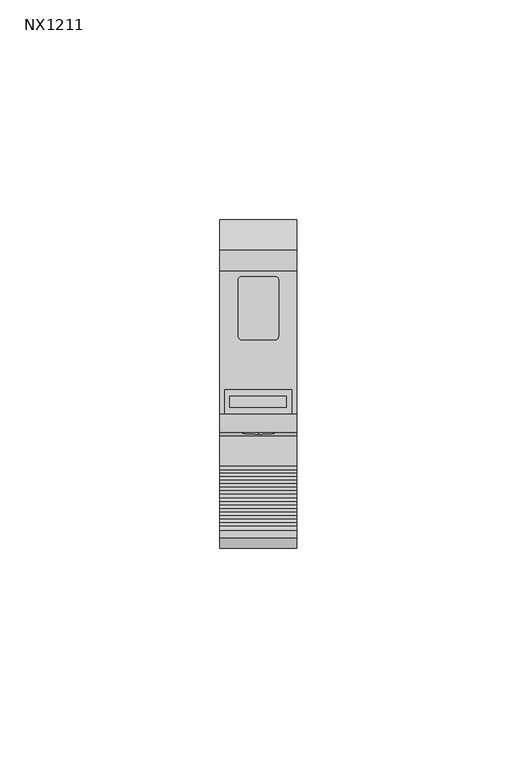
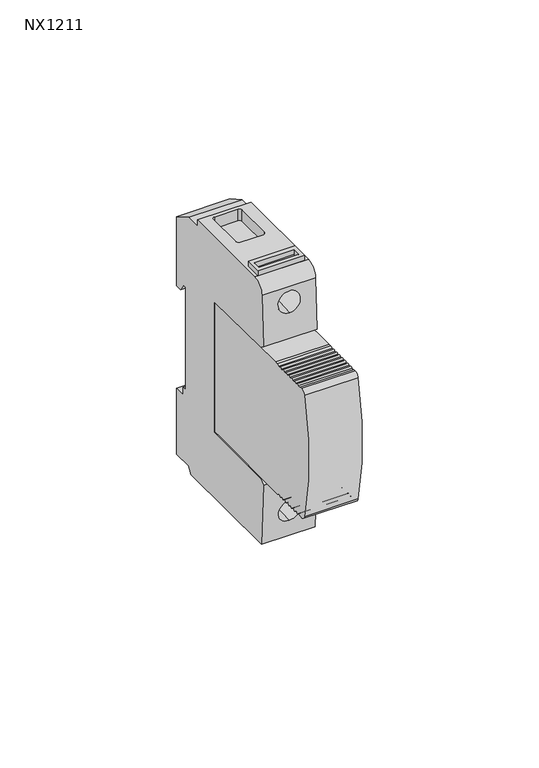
"""IFC4 building model written with IfcOpenShell, lengths in millimetres: proxy geometry, КНС_УЗИП_классI+II_DKC : NX1211."""

from ifc_helpers import new_model, si_unit, point, frame, frame_2d, origin, place, context, project, spatial, polyline, circle_curve, ellipse_curve, trimmed, segment, composite_curve, outline, extrude, source, transform, mapped, element, save
from ifc_brep_helpers import plane_surface, cylinder_surface, revolved_surface, advanced_brep


def nx1211_2f3ccb29(model_context):
    return source(origin(), model_context, "Body", "SolidModel", [
        extrude(outline(polyline([(1.1422597, -33.6922597), (16.3577403, -33.6922597), (16.3577403, -39.0669933), (1.1422597, -39.0669933), (1.1422597, -33.6922597)]), holes=[polyline([(15.147402, -35.102599), (2.251655, -35.102599), (2.2596285, -37.6473987), (15.1473955, -37.6473987), (15.147402, -35.102599)])]), frame((0.0, 0.0, 44.688194), z_axis=(0.0, 0.0, 1.0), x_axis=(1.0, 0.0, 0.0)), (0.0, 0.0, 1.0), 1.65),
        advanced_brep(
        [(17.5, 1.2, 17.438194), (17.5, 2.7207259, 14.938194), (17.5, 5.0, 14.938194), (17.5, 5.0, 38.7044771), (17.5, -1.7972569, 42.6288752), (17.5, -6.7, 42.5860896), (17.5, -6.6806922, 44.688194), (17.5, -39.1559657, 44.688194), (17.5, -43.2612234, 40.8404952), (17.5, -44.1501875, 23.5687496), (17.5, -42.5975423, 22.4685618), (17.5, -16.1999972, 22.2381939), (17.5, -16.1999972, -22.861806), (17.5, -42.5975423, -23.0921739), (17.5, -44.149783, -24.192075), (17.5, -43.0654073, -45.2646007), (17.5, -3.2721098, -45.2646007), (17.5, -1.6937526, -43.2533905), (17.5, 5.0, -43.311806), (17.5, 5.0, -20.561806), (17.5, 1.5, -20.561806), (17.5, 1.5, -18.061806), (17.5, 0.0, -18.061806), (17.5, 0.0, 17.438194), (0.0, 1.2, 17.438194), (0.0, 0.0, 17.438194), (0.0, 0.0, -18.061806), (0.0, 1.5, -18.061806), (0.0, 1.5, -20.561806), (0.0, 5.0, -20.561806), (0.0, 5.0, -43.311806), (0.0, -1.6937526, -43.2533905), (0.0, -3.2721098, -45.2646007), (0.0, -43.0654073, -45.2646007), (0.0, -44.149783, -24.192075), (0.0, -42.5975423, -23.0921739), (0.0, -16.1999972, -22.861806), (0.0, -16.1999972, 22.2381939), (0.0, -42.5975423, 22.4685618), (0.0, -44.1501875, 23.5687496), (0.0, -43.2612234, 40.8404952), (0.0, -39.1559657, 44.688194), (0.0, -6.6806922, 44.688194), (0.0, -6.7, 42.5860896), (0.0, -1.7972569, 42.6288752), (0.0, 5.0, 38.7044771), (0.0, 5.0, 14.938194), (0.0, 2.7207259, 14.938194), (2.251655, -35.102599, 44.688194), (15.147402, -35.102599, 44.688194), (15.1473955, -37.6473987, 44.688194), (2.2596285, -37.6473987, 44.688194), (4.1464467, -8.7059631, 44.688194), (4.9559631, -7.8964466, 44.688194), (12.543988, -7.8964466, 44.688194), (13.3535534, -8.9059631, 44.688194), (13.3535534, -21.4940369, 44.688194), (12.5440369, -22.3035534, 44.688194), (4.9559631, -22.3035534, 44.688194), (4.1464467, -21.2943613, 44.688194), (8.75, -43.7122623, 32.0772292), (8.75, -43.3399564, 39.3107864), (8.75, -43.3425137, -39.8796286), (8.75, -43.7053358, -32.8289577), (15.147402, -35.102599, 40.688194), (2.251655, -35.102599, 40.688194), (2.2596285, -37.6473987, 40.688194), (15.1473955, -37.6473987, 40.688194), (8.75, -32.0563306, 32.6770343), (8.75, -32.241464, 36.2747068), (8.75, -32.4265974, 39.8723793), (8.75, -28.3623348, -39.1087603), (8.75, -28.5437458, -35.5834249), (8.75, -28.7251568, -32.0580894), (4.9559631, -7.8964466, 40.688194), (4.1464467, -8.7059631, 40.688194), (4.1464467, -21.2943613, 40.688194), (4.9559631, -22.3035534, 40.688194), (12.5440369, -22.3035534, 40.688194), (13.3535534, -21.4940369, 40.688194), (13.3535534, -8.9059631, 40.688194), (12.543988, -7.8964466, 40.688194)],
        [
            (0, 1),
            (1, 2),
            (2, 3),
            (3, 4),
            (4, 5),
            (5, 6),
            (6, 7),
            (7, 8, circle_curve(frame((17.5, -39.1559657, 40.574316), z_axis=(1.0, 0.0, 0.0), x_axis=(0.0, -1.0, 0.0)), 4.113878)),
            (8, 9),
            (9, 10),
            (10, 11),
            (11, 12),
            (12, 13),
            (13, 14),
            (14, 15),
            (15, 16),
            (16, 17),
            (17, 18),
            (18, 19),
            (19, 20),
            (20, 21),
            (21, 22),
            (22, 23),
            (23, 0),
            (24, 25),
            (25, 26),
            (26, 27),
            (27, 28),
            (28, 29),
            (29, 30),
            (30, 31),
            (31, 32),
            (32, 33),
            (33, 34),
            (34, 35),
            (35, 36),
            (36, 37),
            (37, 38),
            (38, 39),
            (39, 40),
            (40, 41, circle_curve(frame((0.0, -39.1559657, 40.574316), z_axis=(-1.0, 0.0, 0.0), x_axis=(0.0, -1.0, 0.0)), 4.113878)),
            (41, 42),
            (42, 43),
            (43, 44),
            (44, 45),
            (45, 46),
            (46, 47),
            (47, 24),
            (0, 24),
            (47, 1),
            (46, 2),
            (45, 3),
            (44, 4),
            (43, 5),
            (42, 6),
            (41, 7),
            (48, 49),
            (49, 50),
            (50, 51),
            (51, 48),
            (52, 53, circle_curve(frame((4.9559631, -8.7059631, 44.688194), z_axis=(0.0, 0.0, -1.0), x_axis=(1.0, 0.0, 0.0)), 0.8095165)),
            (53, 54),
            (54, 55, circle_curve(frame((12.543988, -8.7258138, 44.688194), z_axis=(0.0, 0.0, -1.0), x_axis=(1.0, 0.0, 0.0)), 0.8293672)),
            (55, 56),
            (56, 57, circle_curve(frame((12.5440369, -21.4940369, 44.688194), z_axis=(0.0, 0.0, -1.0), x_axis=(1.0, 0.0, 0.0)), 0.8095165)),
            (57, 58),
            (58, 59, circle_curve(frame((5.1802649, -21.2943613, 44.688194), z_axis=(0.0, 0.0, -1.0), x_axis=(1.0, 0.0, 0.0)), 1.0338181)),
            (59, 52),
            (40, 8),
            (39, 9),
            (60, 61, ellipse_curve(frame((8.75, -43.5261093, 35.6940078), z_axis=(0.0, 0.9986780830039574, -0.05140123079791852), x_axis=(0.0, -0.0514012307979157, -0.9986780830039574)), 3.621566, 3.6024328)),
            (61, 60, ellipse_curve(frame((8.75, -43.5261093, 35.6940078), z_axis=(0.0, 0.9986780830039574, -0.05140123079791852), x_axis=(0.0, -0.0514012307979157, -0.9986780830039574)), 3.621566, 3.6024328)),
            (38, 10),
            (37, 11),
            (36, 12),
            (35, 13),
            (34, 14),
            (33, 15),
            (62, 63, circle_curve(frame((8.75, -43.5239247, -36.3542932), z_axis=(0.0, 0.9986785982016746, 0.051391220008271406), x_axis=(0.0, -0.05139122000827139, 0.9986785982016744)), 3.53)),
            (63, 62, circle_curve(frame((8.75, -43.5239247, -36.3542932), z_axis=(0.0, 0.9986785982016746, 0.051391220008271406), x_axis=(0.0, -0.05139122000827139, 0.9986785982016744)), 3.53)),
            (32, 16),
            (31, 17),
            (30, 18),
            (29, 19),
            (28, 20),
            (27, 21),
            (26, 22),
            (25, 23),
            (64, 65),
            (65, 66),
            (66, 67),
            (67, 64),
            (64, 49),
            (48, 65),
            (51, 66),
            (50, 67),
            (68, 69),
            (69, 70),
            (70, 68, circle_curve(frame((8.75, -32.241464, 36.2747068), z_axis=(0.0, -0.9986785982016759, -0.051391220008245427), x_axis=(0.0, -0.05139122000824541, 0.9986785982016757)), 3.6024328)),
            (68, 70, circle_curve(frame((8.75, -32.241464, 36.2747068), z_axis=(0.0, -0.9986785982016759, -0.051391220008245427), x_axis=(0.0, -0.05139122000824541, 0.9986785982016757)), 3.6024328)),
            (70, 61),
            (60, 68),
            (71, 72),
            (72, 73),
            (73, 71, circle_curve(frame((8.75, -28.5437458, -35.5834249), z_axis=(0.0, -0.9986785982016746, -0.051391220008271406), x_axis=(0.0, -0.05139122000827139, 0.9986785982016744)), 3.53)),
            (71, 73, circle_curve(frame((8.75, -28.5437458, -35.5834249), z_axis=(0.0, -0.9986785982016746, -0.051391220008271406), x_axis=(0.0, -0.05139122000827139, 0.9986785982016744)), 3.53)),
            (73, 63),
            (62, 71),
            (74, 75, circle_curve(frame((4.9559631, -8.7059631, 40.688194), z_axis=(0.0, 0.0, 1.0), x_axis=(1.0, 0.0, 0.0)), 0.8095165)),
            (75, 76),
            (76, 77, circle_curve(frame((5.1802649, -21.2943613, 40.688194), z_axis=(0.0, 0.0, 1.0), x_axis=(1.0, 0.0, 0.0)), 1.0338181)),
            (77, 78),
            (78, 79, circle_curve(frame((12.5440369, -21.4940369, 40.688194), z_axis=(0.0, 0.0, 1.0), x_axis=(1.0, 0.0, 0.0)), 0.8095165)),
            (79, 80),
            (80, 81, circle_curve(frame((12.543988, -8.7258138, 40.688194), z_axis=(0.0, 0.0, 1.0), x_axis=(1.0, 0.0, 0.0)), 0.8293672)),
            (81, 74),
            (74, 53),
            (52, 75),
            (59, 76),
            (58, 77),
            (57, 78),
            (56, 79),
            (55, 80),
            (54, 81),
        ],
        [
            plane_surface(frame((17.5, 1.2, 17.438194), z_axis=(1.0, 0.0, 0.0), x_axis=(0.0, 0.5196942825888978, -0.8543523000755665))),
            plane_surface(frame((0.0, 1.2, 17.438194), z_axis=(-1.0, 0.0, 0.0), x_axis=(0.0, -0.5196942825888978, 0.8543523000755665))),
            plane_surface(frame((17.5, 1.2, 17.438194), z_axis=(0.0, -0.8543523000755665, -0.5196942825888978), x_axis=(-1.0, 0.0, 0.0))),
            plane_surface(frame((17.5, 2.7207259, 14.938194), z_axis=(0.0, 0.0, -1.0), x_axis=(-1.0, 0.0, 0.0))),
            plane_surface(frame((17.5, 5.0, 14.938194), z_axis=(0.0, 1.0, 0.0), x_axis=(-1.0, 0.0, 0.0))),
            plane_surface(frame((17.5, 5.0, 38.7044771), z_axis=(0.0, 0.49999999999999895, 0.8660254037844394), x_axis=(-1.0, 0.0, 0.0))),
            plane_surface(frame((17.5, -1.7972569, 42.6288752), z_axis=(0.0, -0.008726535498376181, 0.9999619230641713), x_axis=(-1.0, 0.0, 0.0))),
            plane_surface(frame((17.5, -6.7, 42.5860896), z_axis=(0.0, 0.9999578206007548, -0.009184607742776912), x_axis=(-1.0, 0.0, 0.0))),
            plane_surface(frame((17.5, -6.6806922, 44.688194), z_axis=(0.0, 0.0, 1.0), x_axis=(-1.0, 0.0, 0.0))),
            cylinder_surface(frame((0.0, -39.1559657, 40.574316), z_axis=(1.0, 0.0, 0.0), x_axis=(0.0, -1.0, 0.0)), 4.113878),
            plane_surface(frame((17.5, -43.2612234, 40.8404952), z_axis=(0.0, -0.9986780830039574, 0.05140123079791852), x_axis=(-1.0, 0.0, 0.0))),
            plane_surface(frame((17.5, -44.1501875, 23.5687496), z_axis=(0.0, -0.5781564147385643, -0.8159259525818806), x_axis=(-1.0, 0.0, 0.0))),
            plane_surface(frame((17.5, -42.5975423, 22.4685618), z_axis=(0.0, -0.00872653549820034, -0.9999619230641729), x_axis=(-1.0, 0.0, 0.0))),
            plane_surface(frame((17.5, -16.1999972, 22.2381939), z_axis=(0.0, -1.0, 0.0), x_axis=(-1.0, 0.0, 0.0))),
            plane_surface(frame((17.5, -16.1999972, -22.861806), z_axis=(0.0, -0.008726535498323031, 0.9999619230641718), x_axis=(-1.0, 0.0, 0.0))),
            plane_surface(frame((17.5, -42.5975423, -23.0921739), z_axis=(0.0, -0.5781564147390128, 0.8159259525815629), x_axis=(-1.0, 0.0, 0.0))),
            plane_surface(frame((17.5, -44.149783, -24.192075), z_axis=(0.0, -0.9986785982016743, -0.05139122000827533), x_axis=(-1.0, 0.0, 0.0))),
            plane_surface(frame((17.5, -43.0654073, -45.2646007), z_axis=(0.0, 0.0, -1.0), x_axis=(-1.0, 0.0, 0.0))),
            plane_surface(frame((17.5, -3.2721098, -45.2646007), z_axis=(0.0, 0.7866753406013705, -0.6173669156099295), x_axis=(-1.0, 0.0, 0.0))),
            plane_surface(frame((17.5, -1.6937526, -43.2533905), z_axis=(0.0, -0.008726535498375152, -0.9999619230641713), x_axis=(-1.0, 0.0, 0.0))),
            plane_surface(frame((17.5, 5.0, -43.311806), z_axis=(0.0, 1.0, 0.0), x_axis=(-1.0, 0.0, 0.0))),
            plane_surface(frame((17.5, 5.0, -20.561806), z_axis=(0.0, 0.0, 1.0), x_axis=(-1.0, 0.0, 0.0))),
            plane_surface(frame((17.5, 1.5, -20.561806), z_axis=(0.0, 1.0, 0.0), x_axis=(-1.0, 0.0, 0.0))),
            plane_surface(frame((17.5, 1.5, -18.061806), z_axis=(0.0, 0.0, 1.0), x_axis=(-1.0, 0.0, 0.0))),
            plane_surface(frame((17.5, 0.0, -18.061806), z_axis=(0.0, 1.0, 0.0), x_axis=(-1.0, 0.0, 0.0))),
            plane_surface(frame((17.5, 0.0, 17.438194), z_axis=(0.0, 0.0, -1.0), x_axis=(-1.0, 0.0, 0.0))),
            plane_surface(frame((2.5525837, -35.102599, 40.688194), z_axis=(0.0, 0.0, 1.0), x_axis=(1.0, 0.0, 0.0))),
            plane_surface(frame((15.147402, -35.102599, 51.9501742), z_axis=(0.0, -1.0, 0.0), x_axis=(0.0, 0.0, -1.0))),
            plane_surface(frame((2.251655, -35.102599, 51.9501742), z_axis=(0.9999950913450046, 0.003133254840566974, 0.0), x_axis=(0.0, 0.0, -1.0))),
            plane_surface(frame((2.2596285, -37.6473987, 51.9501742), z_axis=(0.0, 1.0, 0.0), x_axis=(0.0, 0.0, -1.0))),
            plane_surface(frame((15.1473955, -37.6473987, 51.9501742), z_axis=(-0.9999999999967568, 2.546850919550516e-06, 0.0), x_axis=(0.0, 0.0, -1.0))),
            plane_surface(frame((8.75, -32.241464, 36.2747068), z_axis=(0.0, -0.9986785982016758, -0.05139122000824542), x_axis=(0.0, -0.05139122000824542, 0.9986785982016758))),
            revolved_surface(polyline([(8.75, -44.082529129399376, 39.27257420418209), (8.75, -32.42659740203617, 39.872379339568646)]), (8.75, -32.241464, 36.2747068), (0.0, -0.9986785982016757, -0.05139122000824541)),
            plane_surface(frame((8.75, -28.5437458, -35.5834249), z_axis=(0.0, -0.9986785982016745, -0.0513912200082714), x_axis=(0.0, -0.0513912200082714, 0.9986785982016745))),
            revolved_surface(polyline([(8.75, -43.70533579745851, -32.828957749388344), (8.75, -28.725156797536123, -32.058089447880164)]), (8.75, -28.5437458, -35.5834249), (0.0, -0.9986785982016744, -0.05139122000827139)),
            plane_surface(frame((5.7654796, -8.7059631, 40.688194), z_axis=(0.0, 0.0, 1.0), x_axis=(0.0, -1.0, 0.0))),
            revolved_surface(polyline([(5.7654796, -8.7059631, 44.688194), (5.7654796, -8.7059631, 40.688194)]), (4.9559631, -8.7059631, 40.688194), (0.0, 0.0, 1.0)),
            plane_surface(frame((4.1464467, -8.7059631, 44.688194), z_axis=(1.0, 0.0, 0.0), x_axis=(0.0, 0.0, -1.0))),
            revolved_surface(polyline([(6.2140830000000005, -21.2943613, 44.688194), (6.2140830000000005, -21.2943613, 40.688194)]), (5.1802649, -21.2943613, 40.688194), (0.0, 0.0, 1.0)),
            plane_surface(frame((4.9559631, -22.3035534, 44.688194), z_axis=(0.0, 1.0, 0.0), x_axis=(0.0, 0.0, -1.0))),
            revolved_surface(polyline([(13.3535534, -21.4940369, 44.688194), (13.3535534, -21.4940369, 40.688194)]), (12.5440369, -21.4940369, 40.688194), (0.0, 0.0, 1.0)),
            plane_surface(frame((13.3535534, -21.4940369, 44.688194), z_axis=(-1.0, 0.0, 0.0), x_axis=(0.0, 0.0, -1.0))),
            revolved_surface(polyline([(13.3733552, -8.7258138, 44.688194), (13.3733552, -8.7258138, 40.688194)]), (12.543988, -8.7258138, 40.688194), (0.0, 0.0, 1.0)),
            plane_surface(frame((12.543988, -7.8964466, 44.688194), z_axis=(1.8937241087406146e-10, -1.0, 0.0), x_axis=(0.0, 0.0, -1.0))),
        ],
        [
            (0, [[1, 2, 3, 4, 5, 6, 7, 8, 9, 10, 11, 12, 13, 14, 15, 16, 17, 18, 19, 20, 21, 22, 23, 24]]),
            (1, [[25, 26, 27, 28, 29, 30, 31, 32, 33, 34, 35, 36, 37, 38, 39, 40, 41, 42, 43, 44, 45, 46, 47, 48]]),
            (2, [[-1, 49, -48, 50]]),
            (3, [[-2, -50, -47, 51]]),
            (4, [[-3, -51, -46, 52]]),
            (5, [[-4, -52, -45, 53]]),
            (6, [[-5, -53, -44, 54]]),
            (7, [[-6, -54, -43, 55]]),
            (8, [[-7, -55, -42, 56], [57, 58, 59, 60], [61, 62, 63, 64, 65, 66, 67, 68]]),
            (9, [[-8, -56, -41, 69]]),
            (10, [[-9, -69, -40, 70], [71, 72]]),
            (11, [[-10, -70, -39, 73]]),
            (12, [[-11, -73, -38, 74]]),
            (13, [[-12, -74, -37, 75]]),
            (14, [[-13, -75, -36, 76]]),
            (15, [[-14, -76, -35, 77]]),
            (16, [[-15, -77, -34, 78], [79, 80]]),
            (17, [[-16, -78, -33, 81]]),
            (18, [[-17, -81, -32, 82]]),
            (19, [[-18, -82, -31, 83]]),
            (20, [[-19, -83, -30, 84]]),
            (21, [[-20, -84, -29, 85]]),
            (22, [[-21, -85, -28, 86]]),
            (23, [[-22, -86, -27, 87]]),
            (24, [[-23, -87, -26, 88]]),
            (25, [[-24, -88, -25, -49]]),
            (26, [[89, 90, 91, 92]]),
            (27, [[-89, 93, -57, 94]]),
            (28, [[-90, -94, -60, 95]]),
            (29, [[-91, -95, -59, 96]]),
            (30, [[-92, -96, -58, -93]]),
            (31, [[97, 98, 99]]),
            (31, [[-97, 100, -98]]),
            (32, [[-99, 101, -71, 102]]),
            (32, [[-100, -102, -72, -101]]),
            (33, [[103, 104, 105]]),
            (33, [[-103, 106, -104]]),
            (34, [[-105, 107, -79, 108]]),
            (34, [[-106, -108, -80, -107]]),
            (35, [[109, 110, 111, 112, 113, 114, 115, 116]]),
            (36, [[-109, 117, -61, 118]]),
            (37, [[-110, -118, -68, 119]]),
            (38, [[-111, -119, -67, 120]]),
            (39, [[-112, -120, -66, 121]]),
            (40, [[-113, -121, -65, 122]]),
            (41, [[-114, -122, -64, 123]]),
            (42, [[-115, -123, -63, 124]]),
            (43, [[-116, -124, -62, -117]]),
        ],
    ),
        extrude(outline(composite_curve([segment(polyline([(-20.9549972, 22.238194), (-16.1999972, 22.238194), (-16.1999972, -22.238194), (-20.9549972, -22.238194), (-50.9549972, -22.5), (-51.8409232, -22.5)]), True, "CONTINUOUS"), segment(trimmed(circle_curve(frame_2d((-51.8159676, -21.704458)), 0.7959333), [point((-51.8409232, -22.5))], [point((-52.5549972, -22.0))], False, "CARTESIAN"), True, "CONTINUOUS"), segment(polyline([(-52.5549972, -22.0), (-53.3549972, -22.0)]), True, "CONTINUOUS"), segment(trimmed(circle_curve(frame_2d((-53.7549972, -22.0)), 0.4), [point((-53.3549972, -22.0))], [point((-54.1549972, -22.0))], False, "CARTESIAN"), True, "CONTINUOUS"), segment(polyline([(-54.1549972, -22.0), (-54.9549972, -22.0)]), True, "CONTINUOUS"), segment(trimmed(circle_curve(frame_2d((-55.3549972, -22.0)), 0.4), [point((-54.9549972, -22.0))], [point((-55.7549972, -22.0))], False, "CARTESIAN"), True, "CONTINUOUS"), segment(polyline([(-55.7549972, -22.0), (-56.5549972, -22.0)]), True, "CONTINUOUS"), segment(trimmed(circle_curve(frame_2d((-56.9549972, -22.0)), 0.4), [point((-56.5549972, -22.0))], [point((-57.3549972, -22.0))], False, "CARTESIAN"), True, "CONTINUOUS"), segment(polyline([(-57.3549972, -22.0), (-58.1549972, -22.0)]), True, "CONTINUOUS"), segment(trimmed(circle_curve(frame_2d((-58.5549972, -22.0)), 0.4), [point((-58.1549972, -22.0))], [point((-58.9549972, -22.0))], False, "CARTESIAN"), True, "CONTINUOUS"), segment(polyline([(-58.9549972, -22.0), (-59.7549972, -22.0)]), True, "CONTINUOUS"), segment(trimmed(circle_curve(frame_2d((-60.1549972, -22.0)), 0.4), [point((-59.7549972, -22.0))], [point((-60.5549972, -22.0))], False, "CARTESIAN"), True, "CONTINUOUS"), segment(polyline([(-60.5549972, -22.0), (-61.3549972, -22.0)]), True, "CONTINUOUS"), segment(trimmed(circle_curve(frame_2d((-61.7549972, -22.0)), 0.4), [point((-61.3549972, -22.0))], [point((-62.1549972, -22.0))], False, "CARTESIAN"), True, "CONTINUOUS"), segment(polyline([(-62.1549972, -22.0), (-62.9549972, -22.0)]), True, "CONTINUOUS"), segment(trimmed(circle_curve(frame_2d((-63.3549972, -22.0)), 0.4), [point((-62.9549972, -22.0))], [point((-63.7549972, -22.0))], False, "CARTESIAN"), True, "CONTINUOUS"), segment(polyline([(-63.7549972, -22.0), (-64.5549972, -22.0)]), True, "CONTINUOUS"), segment(trimmed(circle_curve(frame_2d((-65.6169646, -20.2703757)), 2.0296243), [point((-64.5549972, -22.0))], [point((-65.6169646, -22.3))], False, "CARTESIAN"), True, "CONTINUOUS"), segment(trimmed(circle_curve(frame_2d((-65.6408544, -20.5391615)), 1.7610005), [point((-65.6169646, -22.3))], [point((-67.3551679, -20.9419667))], False, "CARTESIAN"), True, "CONTINUOUS"), segment(trimmed(circle_curve(frame_2d((15.9165985, 0.0)), 85.8647369), [point((-67.3551679, -20.9419667))], [point((-67.3551679, 20.9419667))], False, "CARTESIAN"), True, "CONTINUOUS"), segment(trimmed(circle_curve(frame_2d((-65.6408544, 20.5391615)), 1.7610005), [point((-67.3551679, 20.9419667))], [point((-65.6169646, 22.3))], False, "CARTESIAN"), True, "CONTINUOUS"), segment(trimmed(circle_curve(frame_2d((-65.6169646, 20.2703757)), 2.0296243), [point((-65.6169646, 22.3))], [point((-64.5549972, 22.0))], False, "CARTESIAN"), True, "CONTINUOUS"), segment(polyline([(-64.5549972, 22.0), (-63.7549972, 22.0)]), True, "CONTINUOUS"), segment(trimmed(circle_curve(frame_2d((-63.3549972, 22.0)), 0.4), [point((-63.7549972, 22.0))], [point((-62.9549972, 22.0))], False, "CARTESIAN"), True, "CONTINUOUS"), segment(polyline([(-62.9549972, 22.0), (-62.1549972, 22.0)]), True, "CONTINUOUS"), segment(trimmed(circle_curve(frame_2d((-61.7549972, 22.0)), 0.4), [point((-62.1549972, 22.0))], [point((-61.3549972, 22.0))], False, "CARTESIAN"), True, "CONTINUOUS"), segment(polyline([(-61.3549972, 22.0), (-60.5549972, 22.0)]), True, "CONTINUOUS"), segment(trimmed(circle_curve(frame_2d((-60.1549972, 22.0)), 0.4), [point((-60.5549972, 22.0))], [point((-59.7549972, 22.0))], False, "CARTESIAN"), True, "CONTINUOUS"), segment(polyline([(-59.7549972, 22.0), (-58.9549972, 22.0)]), True, "CONTINUOUS"), segment(trimmed(circle_curve(frame_2d((-58.5549972, 22.0)), 0.4), [point((-58.9549972, 22.0))], [point((-58.1549972, 22.0))], False, "CARTESIAN"), True, "CONTINUOUS"), segment(polyline([(-58.1549972, 22.0), (-57.3549972, 22.0)]), True, "CONTINUOUS"), segment(trimmed(circle_curve(frame_2d((-56.9549972, 22.0)), 0.4), [point((-57.3549972, 22.0))], [point((-56.5549972, 22.0))], False, "CARTESIAN"), True, "CONTINUOUS"), segment(polyline([(-56.5549972, 22.0), (-55.7549972, 22.0)]), True, "CONTINUOUS"), segment(trimmed(circle_curve(frame_2d((-55.3549972, 22.0)), 0.4), [point((-55.7549972, 22.0))], [point((-54.9549972, 22.0))], False, "CARTESIAN"), True, "CONTINUOUS"), segment(polyline([(-54.9549972, 22.0), (-54.1549972, 22.0)]), True, "CONTINUOUS"), segment(trimmed(circle_curve(frame_2d((-53.7549972, 22.0)), 0.4), [point((-54.1549972, 22.0))], [point((-53.3549972, 22.0))], False, "CARTESIAN"), True, "CONTINUOUS"), segment(polyline([(-53.3549972, 22.0), (-52.5549972, 22.0)]), True, "CONTINUOUS"), segment(trimmed(circle_curve(frame_2d((-51.8159676, 21.704458)), 0.7959333), [point((-52.5549972, 22.0))], [point((-51.8409232, 22.5))], False, "CARTESIAN"), True, "CONTINUOUS"), segment(polyline([(-51.8409232, 22.5), (-50.9549972, 22.5), (-20.9549972, 22.238194)]), True, "CONTINUOUS")], self_intersect=False)), frame((0.0, 0.0, 0.0), z_axis=(1.0, 0.0, 0.0), x_axis=(0.0, 1.0, 0.0)), (0.0, 0.0, 1.0), 17.5),
    ])


if __name__ == "__main__":
    model = new_model("IFC4")
    model_context = context("Model", 3, world=origin())
    ifc_project = project(units=[si_unit("LENGTHUNIT", "METRE", prefix="MILLI")], contexts=[model_context])
    site = spatial("IfcSite", under=ifc_project)
    building = spatial("IfcBuilding", under=site)
    placement = place(None, origin())
    nx1211_shape = nx1211_2f3ccb29(model_context)
    element("IfcBuildingElementProxy", 1, Name="КНС_УЗИП_классI+II_DKC : NX1211", ObjectType="КНС_УЗИП_классI+II_DKC : NX1211", at=placement, inside=building, context=model_context, shape_type="MappedRepresentation", body=[
        mapped(nx1211_shape, transform((0.0, 0.0, 0.0), x_axis=(1.0, 0.0, 0.0), y_axis=(0.0, 1.0, 0.0), z_axis=(0.0, 0.0, 1.0))),
    ])
    save(model, "model.ifc")
